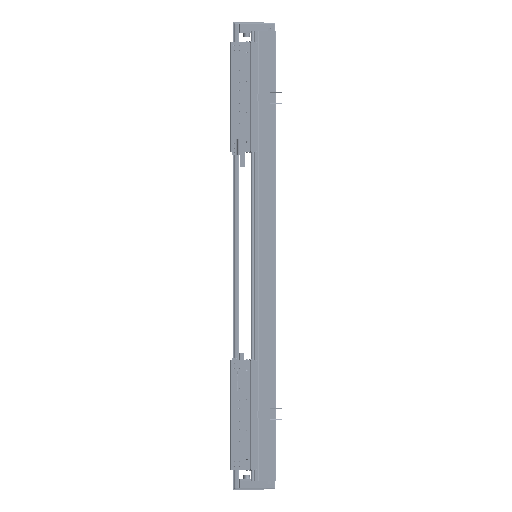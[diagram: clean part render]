
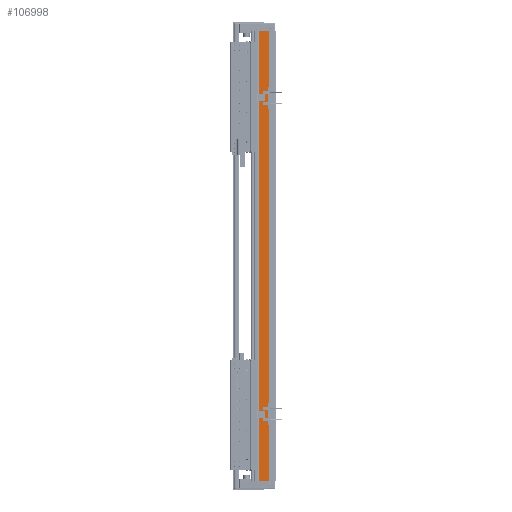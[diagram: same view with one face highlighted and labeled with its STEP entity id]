
A CAD part, left-side view. The second image highlights one B-rep face of the part: STEP entity #106998.
In plain terms, the highlighted planar face has unit normal (-1, 0, 0).
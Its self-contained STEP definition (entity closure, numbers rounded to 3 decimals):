
#763 = EDGE_LOOP ( 'NONE', ( #119708, #134685, #46070, #78698 ) ) ;
#850 = CARTESIAN_POINT ( 'NONE',  ( -97.5, 36.95, 510. ) ) ;
#3529 = EDGE_CURVE ( 'NONE', #55129, #26368, #12115, .T. ) ;
#4075 = CARTESIAN_POINT ( 'NONE',  ( -97.5, 36.95, -510. ) ) ;
#4843 = DIRECTION ( 'NONE',  ( 0., 0., -1. ) ) ;
#12115 = LINE ( 'NONE', #131079, #129666 ) ;
#22337 = EDGE_CURVE ( 'NONE', #136816, #26368, #137347, .T. ) ;
#26368 = VERTEX_POINT ( 'NONE', #57189 ) ;
#26474 = VECTOR ( 'NONE', #125760, 1000. ) ;
#39451 = DIRECTION ( 'NONE',  ( 0., 1., 0. ) ) ;
#46070 = ORIENTED_EDGE ( 'NONE', *, *, #124547, .F. ) ;
#49500 = FACE_OUTER_BOUND ( 'NONE', #763, .T. ) ;
#50607 = VERTEX_POINT ( 'NONE', #138620 ) ;
#50713 = CARTESIAN_POINT ( 'NONE',  ( -97.5, 14.45, 510. ) ) ;
#53491 = LINE ( 'NONE', #85981, #80194 ) ;
#55129 = VERTEX_POINT ( 'NONE', #50713 ) ;
#57189 = CARTESIAN_POINT ( 'NONE',  ( -97.5, 14.45, -510. ) ) ;
#59994 = AXIS2_PLACEMENT_3D ( 'NONE', #120560, #145284, #39451 ) ;
#68525 = EDGE_CURVE ( 'NONE', #50607, #136816, #53491, .T. ) ;
#73435 = PLANE ( 'NONE',  #59994 ) ;
#73893 = DIRECTION ( 'NONE',  ( 0., 0., -1. ) ) ;
#78698 = ORIENTED_EDGE ( 'NONE', *, *, #68525, .T. ) ;
#80194 = VECTOR ( 'NONE', #4843, 1000. ) ;
#85981 = CARTESIAN_POINT ( 'NONE',  ( -97.5, 36.95, 510. ) ) ;
#91793 = CARTESIAN_POINT ( 'NONE',  ( -97.5, 36.95, -510. ) ) ;
#106998 = ADVANCED_FACE ( 'NONE', ( #49500 ), #73435, .F. ) ;
#119622 = VECTOR ( 'NONE', #130623, 1000. ) ;
#119708 = ORIENTED_EDGE ( 'NONE', *, *, #22337, .T. ) ;
#119777 = LINE ( 'NONE', #850, #119622 ) ;
#120560 = CARTESIAN_POINT ( 'NONE',  ( -97.5, 36.95, 510. ) ) ;
#124547 = EDGE_CURVE ( 'NONE', #50607, #55129, #119777, .T. ) ;
#125760 = DIRECTION ( 'NONE',  ( 0., -1., 0. ) ) ;
#129666 = VECTOR ( 'NONE', #73893, 1000. ) ;
#130623 = DIRECTION ( 'NONE',  ( 0., -1., 0. ) ) ;
#131079 = CARTESIAN_POINT ( 'NONE',  ( -97.5, 14.45, 510. ) ) ;
#134685 = ORIENTED_EDGE ( 'NONE', *, *, #3529, .F. ) ;
#136816 = VERTEX_POINT ( 'NONE', #4075 ) ;
#137347 = LINE ( 'NONE', #91793, #26474 ) ;
#138620 = CARTESIAN_POINT ( 'NONE',  ( -97.5, 36.95, 510. ) ) ;
#145284 = DIRECTION ( 'NONE',  ( 1., 0., 0. ) ) ;
